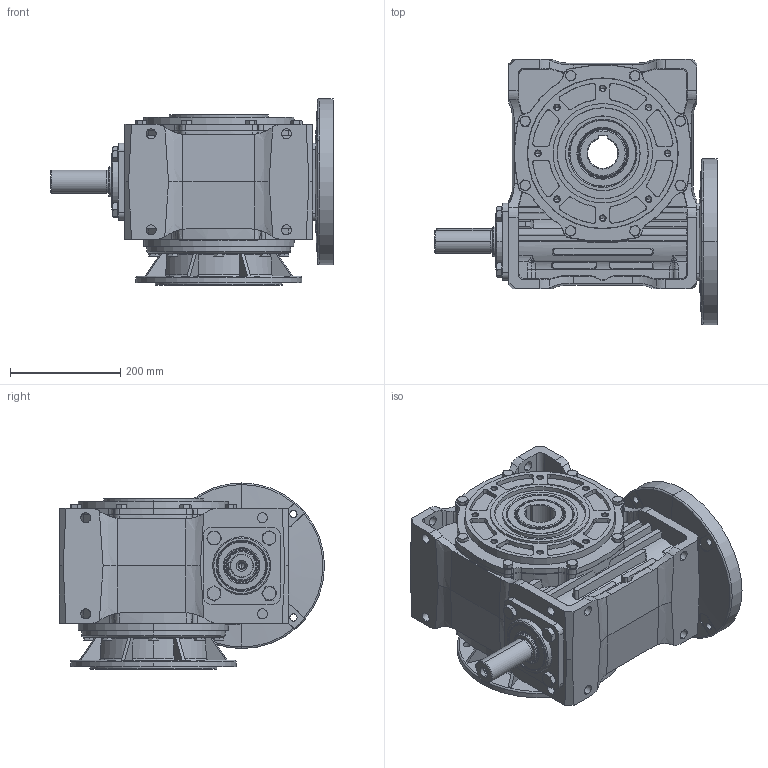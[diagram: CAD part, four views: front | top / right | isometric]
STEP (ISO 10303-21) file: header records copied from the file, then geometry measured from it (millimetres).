
FILE_DESCRIPTION (( 'STEP AP203' ), '1' );
FILE_NAME ('MR-160_300-38-WBS-K300_1-3D.STEP', '2020-03-20T13:53:34', ( '' ), ( '' ), 'SwSTEP 2.0', 'SolidWorks 2013', '' );
FILE_SCHEMA (( 'CONFIG_CONTROL_DESIGN' ));
Length unit declared in the file: millimetre
Products named in the file (12): Pokrywa 166_do nowej wersji; Simmering 55x90x10 RST; MR-160 - do modeli; parallel_din_Parallel key A12 x 8 x 100 DIN 6885; Œlimak R-160_MR.160.03.4.02; hex screw gradeab_iso_ISO 4017 - M16 x 30-N; Ko³nierz 16xx_300 do nowego korpusu; MR-160_300-38-WBS-K300_1-3D; Simmering 70x100x10 RST; socket head cap screw_iso_ISO 4762 M16 x 30 --- 30N; Ko³nierz 164_do modeli; hex screw gradeab_iso_ISO 4017 - M10 x 30-N
Assembly tree (24 placements, depth 2):
  MR-160_300-38-WBS-K300_1-3D
    MR-160 - do modeli
    Œlimak R-160_MR.160.03.4.02
    Ko³nierz 16xx_300 do nowego korpusu
    Simmering 70x100x10 RST
    socket head cap screw_iso_ISO 4762 M16 x 30 --- 30N  x4
    Ko³nierz 164_do modeli
    hex screw gradeab_iso_ISO 4017 - M10 x 30-N  x8
    Pokrywa 166_do nowej wersji
    Simmering 55x90x10 RST
    parallel_din_Parallel key A12 x 8 x 100 DIN 6885
    hex screw gradeab_iso_ISO 4017 - M16 x 30-N  x4
Bounding box: 511 x 480 x 337 mm (x, y, z)
Volume: 15431145.2 mm3; surface area: 2375402.9 mm2
Topology: 36 solids, 36 shells, 3368 faces, 8186 edges, 4974 vertices
Faces by surface type: plane 1055, cone 794, cylinder 770, bspline 485, torus 185, sphere 79
Entity records: 113900 total; most frequent: CARTESIAN_POINT 45011, ORIENTED_EDGE 14676, DIRECTION 13479, EDGE_CURVE 7338, AXIS2_PLACEMENT_3D 5371, VERTEX_POINT 4535, EDGE_LOOP 3257, ADVANCED_FACE 2997
